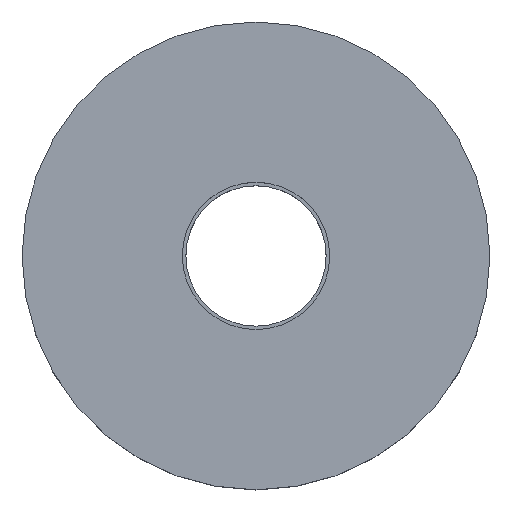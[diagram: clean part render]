
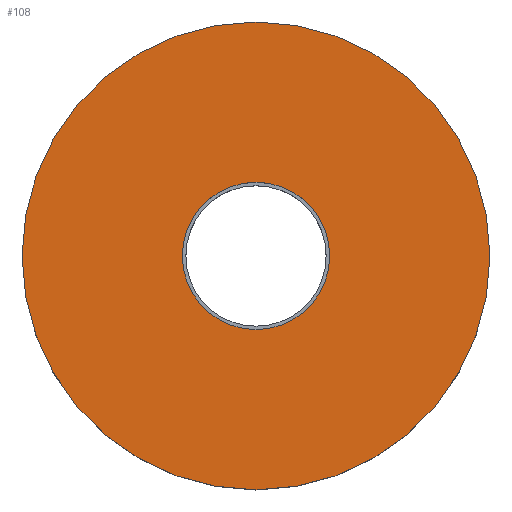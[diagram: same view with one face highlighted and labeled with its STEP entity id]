
A CAD part, top view. The second image highlights one B-rep face of the part: STEP entity #108.
In plain terms, the highlighted planar face has unit normal (0, 0, 1).
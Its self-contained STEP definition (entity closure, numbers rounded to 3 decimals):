
#16=FACE_BOUND('',#33,.T.);
#19=PLANE('',#144);
#25=FACE_OUTER_BOUND('',#32,.T.);
#32=EDGE_LOOP('',(#94,#95));
#33=EDGE_LOOP('',(#96,#97));
#42=CIRCLE('',#131,3.15);
#43=CIRCLE('',#132,3.15);
#48=CIRCLE('',#140,10.);
#49=CIRCLE('',#141,10.);
#52=VERTEX_POINT('',#185);
#53=VERTEX_POINT('',#186);
#58=VERTEX_POINT('',#202);
#59=VERTEX_POINT('',#203);
#62=EDGE_CURVE('',#52,#53,#42,.T.);
#63=EDGE_CURVE('',#53,#52,#43,.T.);
#70=EDGE_CURVE('',#58,#59,#48,.T.);
#71=EDGE_CURVE('',#59,#58,#49,.T.);
#94=ORIENTED_EDGE('',*,*,#70,.T.);
#95=ORIENTED_EDGE('',*,*,#71,.T.);
#96=ORIENTED_EDGE('',*,*,#62,.T.);
#97=ORIENTED_EDGE('',*,*,#63,.T.);
#108=ADVANCED_FACE('',(#25,#16),#19,.T.);
#131=AXIS2_PLACEMENT_3D('',#187,#150,#151);
#132=AXIS2_PLACEMENT_3D('',#188,#152,#153);
#140=AXIS2_PLACEMENT_3D('',#204,#170,#171);
#141=AXIS2_PLACEMENT_3D('',#205,#172,#173);
#144=AXIS2_PLACEMENT_3D('',#211,#179,#180);
#150=DIRECTION('center_axis',(0.,0.,-1.));
#151=DIRECTION('ref_axis',(1.,0.,0.));
#152=DIRECTION('center_axis',(0.,0.,-1.));
#153=DIRECTION('ref_axis',(1.,0.,0.));
#170=DIRECTION('center_axis',(0.,0.,1.));
#171=DIRECTION('ref_axis',(1.,0.,0.));
#172=DIRECTION('center_axis',(0.,0.,1.));
#173=DIRECTION('ref_axis',(1.,0.,0.));
#179=DIRECTION('center_axis',(0.,0.,1.));
#180=DIRECTION('ref_axis',(1.,0.,0.));
#185=CARTESIAN_POINT('',(3.15,0.,4.));
#186=CARTESIAN_POINT('',(-3.15,0.,4.));
#187=CARTESIAN_POINT('Origin',(0.,0.,4.));
#188=CARTESIAN_POINT('Origin',(0.,0.,4.));
#202=CARTESIAN_POINT('',(10.,0.,4.));
#203=CARTESIAN_POINT('',(-10.,0.,4.));
#204=CARTESIAN_POINT('Origin',(0.,0.,4.));
#205=CARTESIAN_POINT('Origin',(0.,0.,4.));
#211=CARTESIAN_POINT('Origin',(0.,0.,4.));
